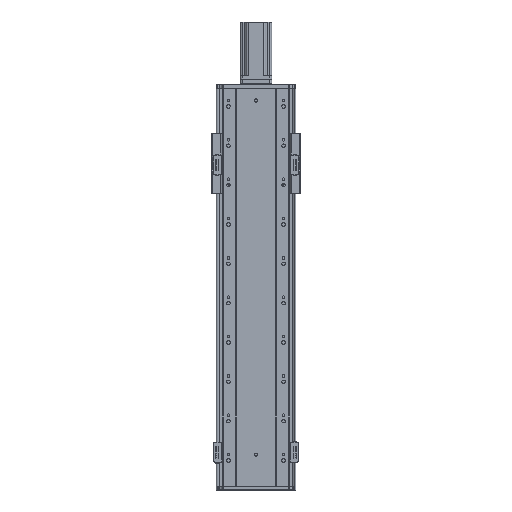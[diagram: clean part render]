
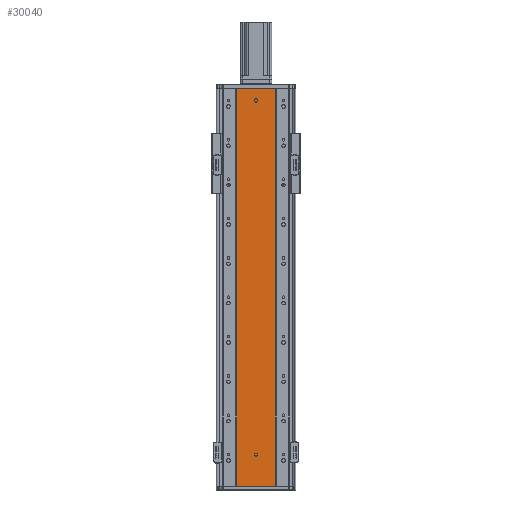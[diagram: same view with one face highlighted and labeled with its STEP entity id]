
A CAD part, front view. The second image highlights one B-rep face of the part: STEP entity #30040.
In plain terms, the highlighted planar face has unit normal (0, -1, 0).
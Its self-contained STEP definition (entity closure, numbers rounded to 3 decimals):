
#9507 = EDGE_CURVE ( 'NONE', #9806, #9786, #24421, .T. ) ;
#9512 = EDGE_CURVE ( 'NONE', #9813, #9786, #40622, .T. ) ;
#9549 = EDGE_CURVE ( 'NONE', #16233, #16235, #23328, .T. ) ;
#9560 = EDGE_CURVE ( 'NONE', #9756, #9806, #40623, .T. ) ;
#9561 = EDGE_CURVE ( 'NONE', #9756, #9813, #23348, .T. ) ;
#9590 = EDGE_CURVE ( 'NONE', #43587, #43575, #23731, .T. ) ;
#9756 = VERTEX_POINT ( 'NONE', #11416 ) ;
#9786 = VERTEX_POINT ( 'NONE', #11440 ) ;
#9806 = VERTEX_POINT ( 'NONE', #11480 ) ;
#9813 = VERTEX_POINT ( 'NONE', #11482 ) ;
#11416 = CARTESIAN_POINT ( 'NONE',  ( 86.97, 79.476, 1010. ) ) ;
#11440 = CARTESIAN_POINT ( 'NONE',  ( 185.97, 79.476, 0. ) ) ;
#11480 = CARTESIAN_POINT ( 'NONE',  ( 86.97, 79.476, 0. ) ) ;
#11482 = CARTESIAN_POINT ( 'NONE',  ( 185.97, 79.476, 1010. ) ) ;
#16233 = VERTEX_POINT ( 'NONE', #16363 ) ;
#16235 = VERTEX_POINT ( 'NONE', #16347 ) ;
#16279 = CARTESIAN_POINT ( 'NONE',  ( 136.47, 79.476, 984. ) ) ;
#16299 = CARTESIAN_POINT ( 'NONE',  ( 136.47, 79.476, 976. ) ) ;
#16347 = CARTESIAN_POINT ( 'NONE',  ( 136.47, 79.476, 84. ) ) ;
#16363 = CARTESIAN_POINT ( 'NONE',  ( 136.47, 79.476, 76. ) ) ;
#19957 = CARTESIAN_POINT ( 'NONE',  ( 185.97, 79.476, 673.333 ) ) ;
#19974 = CARTESIAN_POINT ( 'NONE',  ( 185.97, 79.476, 336.667 ) ) ;
#19975 = CARTESIAN_POINT ( 'NONE',  ( 0., 79.476, 0. ) ) ;
#19979 = DIRECTION ( 'NONE',  ( 1., 0., 0. ) ) ;
#19989 = CARTESIAN_POINT ( 'NONE',  ( 185.97, 79.476, 1010. ) ) ;
#19990 = CARTESIAN_POINT ( 'NONE',  ( 185.97, 79.476, 0. ) ) ;
#20037 = DIRECTION ( 'NONE',  ( 0., -1., 0. ) ) ;
#20059 = DIRECTION ( 'NONE',  ( 0., 0., -1. ) ) ;
#20072 = CARTESIAN_POINT ( 'NONE',  ( 136.47, 79.476, 80. ) ) ;
#20080 = CARTESIAN_POINT ( 'NONE',  ( 86.97, 79.476, 673.333 ) ) ;
#20082 = CARTESIAN_POINT ( 'NONE',  ( 86.97, 79.476, 336.667 ) ) ;
#20091 = CARTESIAN_POINT ( 'NONE',  ( 86.97, 79.476, 1010. ) ) ;
#20092 = CARTESIAN_POINT ( 'NONE',  ( 0., 79.476, 1010. ) ) ;
#20101 = DIRECTION ( 'NONE',  ( 1., 0., 0. ) ) ;
#20103 = CARTESIAN_POINT ( 'NONE',  ( 86.97, 79.476, 0. ) ) ;
#20126 = DIRECTION ( 'NONE',  ( 0., 0., -1. ) ) ;
#20130 = CARTESIAN_POINT ( 'NONE',  ( 136.47, 79.476, 980. ) ) ;
#20155 = DIRECTION ( 'NONE',  ( 0., -1., 0. ) ) ;
#20384 = AXIS2_PLACEMENT_3D ( 'NONE', #20072, #20037, #20059 ) ;
#20416 = AXIS2_PLACEMENT_3D ( 'NONE', #20130, #20155, #20126 ) ;
#20768 = AXIS2_PLACEMENT_3D ( 'NONE', #28931, #28903, #28890 ) ;
#20823 = AXIS2_PLACEMENT_3D ( 'NONE', #29040, #29071, #29044 ) ;
#20903 = AXIS2_PLACEMENT_3D ( 'NONE', #29809, #29824, #29804 ) ;
#23166 = EDGE_CURVE ( 'NONE', #16235, #16233, #33263, .T. ) ;
#23203 = EDGE_CURVE ( 'NONE', #43575, #43587, #33271, .T. ) ;
#23328 = CIRCLE ( 'NONE', #20384, 4. ) ;
#23348 = LINE ( 'NONE', #20092, #23362 ) ;
#23362 = VECTOR ( 'NONE', #20101, 1000. ) ;
#23731 = CIRCLE ( 'NONE', #20416, 4. ) ;
#24376 = VECTOR ( 'NONE', #19979, 1000. ) ;
#24421 = LINE ( 'NONE', #19975, #24376 ) ;
#28890 = DIRECTION ( 'NONE',  ( 0., 0., -1. ) ) ;
#28903 = DIRECTION ( 'NONE',  ( 0., -1., 0. ) ) ;
#28931 = CARTESIAN_POINT ( 'NONE',  ( 136.47, 79.476, 80. ) ) ;
#29040 = CARTESIAN_POINT ( 'NONE',  ( 136.47, 79.476, 980. ) ) ;
#29044 = DIRECTION ( 'NONE',  ( 0., 0., -1. ) ) ;
#29071 = DIRECTION ( 'NONE',  ( 0., -1., 0. ) ) ;
#29308 = EDGE_LOOP ( 'NONE', ( #30522, #30534, #30494, #30485 ) ) ;
#29804 = DIRECTION ( 'NONE',  ( 0., 0., 1. ) ) ;
#29809 = CARTESIAN_POINT ( 'NONE',  ( 0., 79.476, 1010. ) ) ;
#29823 = PLANE ( 'NONE',  #20903 ) ;
#29824 = DIRECTION ( 'NONE',  ( 0., 1., 0. ) ) ;
#30040 = ADVANCED_FACE ( 'NONE', ( #33446, #33431, #33433 ), #29823, .F. ) ;
#30485 = ORIENTED_EDGE ( 'NONE', *, *, #9560, .T. ) ;
#30494 = ORIENTED_EDGE ( 'NONE', *, *, #9561, .F. ) ;
#30510 = ORIENTED_EDGE ( 'NONE', *, *, #23166, .F. ) ;
#30512 = ORIENTED_EDGE ( 'NONE', *, *, #23203, .F. ) ;
#30520 = ORIENTED_EDGE ( 'NONE', *, *, #9590, .F. ) ;
#30522 = ORIENTED_EDGE ( 'NONE', *, *, #9507, .T. ) ;
#30528 = ORIENTED_EDGE ( 'NONE', *, *, #9549, .F. ) ;
#30534 = ORIENTED_EDGE ( 'NONE', *, *, #9512, .F. ) ;
#33263 = CIRCLE ( 'NONE', #20768, 4. ) ;
#33271 = CIRCLE ( 'NONE', #20823, 4. ) ;
#33431 = FACE_BOUND ( 'NONE', #37479, .T. ) ;
#33433 = FACE_OUTER_BOUND ( 'NONE', #29308, .T. ) ;
#33446 = FACE_BOUND ( 'NONE', #37462, .T. ) ;
#37462 = EDGE_LOOP ( 'NONE', ( #30520, #30512 ) ) ;
#37479 = EDGE_LOOP ( 'NONE', ( #30528, #30510 ) ) ;
#40622 = B_SPLINE_CURVE_WITH_KNOTS ( 'NONE', 3,
 ( #19989, #19957, #19974, #19990 ),
 .UNSPECIFIED., .F., .F.,
 ( 4, 4 ),
 ( 0., 1. ),
 .UNSPECIFIED. ) ;
#40623 = B_SPLINE_CURVE_WITH_KNOTS ( 'NONE', 3,
 ( #20091, #20080, #20082, #20103 ),
 .UNSPECIFIED., .F., .F.,
 ( 4, 4 ),
 ( 0., 1. ),
 .UNSPECIFIED. ) ;
#43575 = VERTEX_POINT ( 'NONE', #16279 ) ;
#43587 = VERTEX_POINT ( 'NONE', #16299 ) ;
